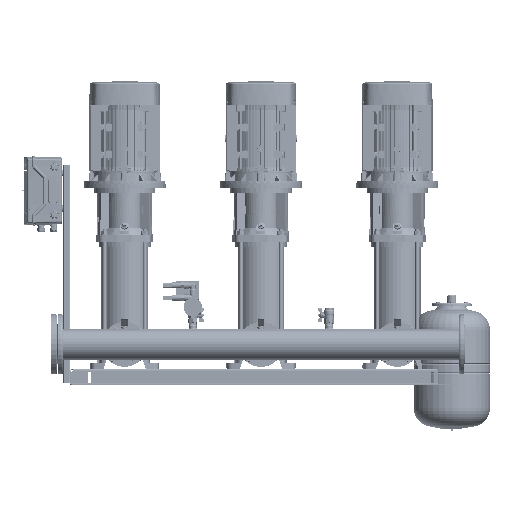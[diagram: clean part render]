
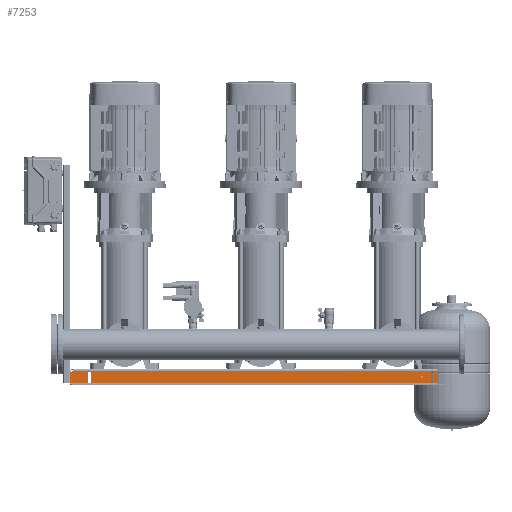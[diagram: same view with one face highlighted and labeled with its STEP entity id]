
A CAD part, front view. The second image highlights one B-rep face of the part: STEP entity #7253.
In plain terms, the highlighted planar face has unit normal (0, -1, 0) as drawn and (0, 0, 1) by its records, which use the part's own axes.
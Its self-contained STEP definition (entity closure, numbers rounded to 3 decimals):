
#6425=CARTESIAN_POINT('Vertex',(-8.671,-7.,130.)) ;
#6512=CARTESIAN_POINT('Vertex',(-1391.329,-7.,130.)) ;
#6646=CARTESIAN_POINT('Axis2P3D Location',(-2.877,-3.072,130.)) ;
#6650=CARTESIAN_POINT('Vertex',(-4.115,-9.962,130.)) ;
#6688=CARTESIAN_POINT('Vertex',(-1395.885,-9.962,130.)) ;
#6691=CARTESIAN_POINT('Axis2P3D Location',(-1397.123,-3.072,130.)) ;
#6712=CARTESIAN_POINT('Vertex',(0.,-14.883,130.)) ;
#6722=CARTESIAN_POINT('Axis2P3D Location',(-5.,-14.883,130.)) ;
#6750=CARTESIAN_POINT('Vertex',(-1400.,-14.883,130.)) ;
#6753=CARTESIAN_POINT('Axis2P3D Location',(-1395.,-14.883,130.)) ;
#6770=CARTESIAN_POINT('Line Origine',(-1329.,-12.,130.)) ;
#6774=CARTESIAN_POINT('Vertex',(-1333.,-12.,130.)) ;
#6776=CARTESIAN_POINT('Vertex',(-1325.,-12.,130.)) ;
#6814=CARTESIAN_POINT('Vertex',(-1333.,-52.,130.)) ;
#6824=CARTESIAN_POINT('Line Origine',(-1333.,-32.,130.)) ;
#6841=CARTESIAN_POINT('Line Origine',(-1325.,-32.,130.)) ;
#6845=CARTESIAN_POINT('Vertex',(-1325.,-52.,130.)) ;
#6872=CARTESIAN_POINT('Line Origine',(-1329.,-52.,130.)) ;
#6894=CARTESIAN_POINT('Line Origine',(-67.,-32.,130.)) ;
#6898=CARTESIAN_POINT('Vertex',(-67.,-12.,130.)) ;
#6900=CARTESIAN_POINT('Vertex',(-67.,-52.,130.)) ;
#6938=CARTESIAN_POINT('Vertex',(-75.,-12.,130.)) ;
#6948=CARTESIAN_POINT('Line Origine',(-71.,-12.,130.)) ;
#6965=CARTESIAN_POINT('Line Origine',(-71.,-52.,130.)) ;
#6969=CARTESIAN_POINT('Vertex',(-75.,-52.,130.)) ;
#7001=CARTESIAN_POINT('Line Origine',(-75.,-32.,130.)) ;
#7022=CARTESIAN_POINT('Vertex',(0.,-53.,130.)) ;
#7032=CARTESIAN_POINT('Line Origine',(0.,-33.941,130.)) ;
#7049=CARTESIAN_POINT('Axis2P3D Location',(-110.,-30.,130.)) ;
#7053=CARTESIAN_POINT('Vertex',(-105.75,-30.,130.)) ;
#7055=CARTESIAN_POINT('Vertex',(-114.25,-30.,130.)) ;
#7089=CARTESIAN_POINT('Axis2P3D Location',(-110.,-30.,130.)) ;
#7106=CARTESIAN_POINT('Line Origine',(-700.,-7.,130.)) ;
#7123=CARTESIAN_POINT('Line Origine',(-1400.,-33.941,130.)) ;
#7127=CARTESIAN_POINT('Vertex',(-1400.,-53.,130.)) ;
#7217=CARTESIAN_POINT('Axis2P3D Location',(-700.,0.,130.)) ;
#7222=CARTESIAN_POINT('Line Origine',(-700.,-53.,130.)) ;
#6772=VECTOR('Line Direction',#6771,1.) ;
#6826=VECTOR('Line Direction',#6825,1.) ;
#6843=VECTOR('Line Direction',#6842,1.) ;
#6874=VECTOR('Line Direction',#6873,1.) ;
#6896=VECTOR('Line Direction',#6895,1.) ;
#6950=VECTOR('Line Direction',#6949,1.) ;
#6967=VECTOR('Line Direction',#6966,1.) ;
#7003=VECTOR('Line Direction',#7002,1.) ;
#7034=VECTOR('Line Direction',#7033,1.) ;
#7108=VECTOR('Line Direction',#7107,1.) ;
#7125=VECTOR('Line Direction',#7124,1.) ;
#7224=VECTOR('Line Direction',#7223,1.) ;
#6647=DIRECTION('Axis2P3D Direction',(0.,0.,1.)) ;
#6692=DIRECTION('Axis2P3D Direction',(0.,0.,1.)) ;
#6723=DIRECTION('Axis2P3D Direction',(0.,0.,1.)) ;
#6754=DIRECTION('Axis2P3D Direction',(0.,0.,1.)) ;
#6771=DIRECTION('Vector Direction',(1.,0.,0.)) ;
#6825=DIRECTION('Vector Direction',(0.,-1.,0.)) ;
#6842=DIRECTION('Vector Direction',(0.,-1.,0.)) ;
#6873=DIRECTION('Vector Direction',(1.,0.,0.)) ;
#6895=DIRECTION('Vector Direction',(0.,-1.,0.)) ;
#6949=DIRECTION('Vector Direction',(1.,0.,0.)) ;
#6966=DIRECTION('Vector Direction',(1.,0.,0.)) ;
#7002=DIRECTION('Vector Direction',(0.,-1.,0.)) ;
#7033=DIRECTION('Vector Direction',(0.,1.,0.)) ;
#7050=DIRECTION('Axis2P3D Direction',(0.,0.,1.)) ;
#7090=DIRECTION('Axis2P3D Direction',(0.,0.,1.)) ;
#7107=DIRECTION('Vector Direction',(-1.,0.,0.)) ;
#7124=DIRECTION('Vector Direction',(0.,1.,0.)) ;
#7218=DIRECTION('Axis2P3D Direction',(0.,0.,1.)) ;
#7219=DIRECTION('Axis2P3D XDirection',(-1.,0.,0.)) ;
#7223=DIRECTION('Vector Direction',(1.,0.,0.)) ;
#6648=AXIS2_PLACEMENT_3D('Circle Axis2P3D',#6646,#6647,$) ;
#6693=AXIS2_PLACEMENT_3D('Circle Axis2P3D',#6691,#6692,$) ;
#6724=AXIS2_PLACEMENT_3D('Circle Axis2P3D',#6722,#6723,$) ;
#6755=AXIS2_PLACEMENT_3D('Circle Axis2P3D',#6753,#6754,$) ;
#7051=AXIS2_PLACEMENT_3D('Circle Axis2P3D',#7049,#7050,$) ;
#7091=AXIS2_PLACEMENT_3D('Circle Axis2P3D',#7089,#7090,$) ;
#7220=AXIS2_PLACEMENT_3D('Plane Axis2P3D',#7217,#7218,#7219) ;
#6773=LINE('Line',#6770,#6772) ;
#6827=LINE('Line',#6824,#6826) ;
#6844=LINE('Line',#6841,#6843) ;
#6875=LINE('Line',#6872,#6874) ;
#6897=LINE('Line',#6894,#6896) ;
#6951=LINE('Line',#6948,#6950) ;
#6968=LINE('Line',#6965,#6967) ;
#7004=LINE('Line',#7001,#7003) ;
#7035=LINE('Line',#7032,#7034) ;
#7109=LINE('Line',#7106,#7108) ;
#7126=LINE('Line',#7123,#7125) ;
#7225=LINE('Line',#7222,#7224) ;
#6649=CIRCLE('generated circle',#6648,7.) ;
#6694=CIRCLE('generated circle',#6693,7.) ;
#6725=CIRCLE('generated circle',#6724,5.) ;
#6756=CIRCLE('generated circle',#6755,5.) ;
#7052=CIRCLE('generated circle',#7051,4.25) ;
#7092=CIRCLE('generated circle',#7091,4.25) ;
#7221=PLANE('',#7220) ;
#7242=FACE_BOUND('',#7237,.T.) ;
#7248=FACE_BOUND('',#7243,.T.) ;
#7252=FACE_BOUND('',#7249,.T.) ;
#6652=EDGE_CURVE('',#6426,#6651,#6649,.T.) ;
#6695=EDGE_CURVE('',#6689,#6513,#6694,.T.) ;
#6726=EDGE_CURVE('',#6713,#6651,#6725,.T.) ;
#6757=EDGE_CURVE('',#6689,#6751,#6756,.T.) ;
#6778=EDGE_CURVE('',#6775,#6777,#6773,.T.) ;
#6828=EDGE_CURVE('',#6775,#6815,#6827,.T.) ;
#6847=EDGE_CURVE('',#6777,#6846,#6844,.T.) ;
#6876=EDGE_CURVE('',#6815,#6846,#6875,.T.) ;
#6902=EDGE_CURVE('',#6899,#6901,#6897,.T.) ;
#6952=EDGE_CURVE('',#6939,#6899,#6951,.T.) ;
#6971=EDGE_CURVE('',#6970,#6901,#6968,.T.) ;
#7005=EDGE_CURVE('',#6939,#6970,#7004,.T.) ;
#7036=EDGE_CURVE('',#7023,#6713,#7035,.T.) ;
#7057=EDGE_CURVE('',#7054,#7056,#7052,.T.) ;
#7093=EDGE_CURVE('',#7056,#7054,#7092,.T.) ;
#7110=EDGE_CURVE('',#6513,#6426,#7109,.F.) ;
#7129=EDGE_CURVE('',#7128,#6751,#7126,.T.) ;
#7226=EDGE_CURVE('',#7128,#7023,#7225,.T.) ;
#7228=ORIENTED_EDGE('',*,*,#6652,.F.) ;
#7229=ORIENTED_EDGE('',*,*,#7110,.F.) ;
#7230=ORIENTED_EDGE('',*,*,#6695,.F.) ;
#7231=ORIENTED_EDGE('',*,*,#6757,.T.) ;
#7232=ORIENTED_EDGE('',*,*,#7129,.F.) ;
#7233=ORIENTED_EDGE('',*,*,#7226,.T.) ;
#7234=ORIENTED_EDGE('',*,*,#7036,.T.) ;
#7235=ORIENTED_EDGE('',*,*,#6726,.T.) ;
#7238=ORIENTED_EDGE('',*,*,#6778,.T.) ;
#7239=ORIENTED_EDGE('',*,*,#6847,.T.) ;
#7240=ORIENTED_EDGE('',*,*,#6876,.F.) ;
#7241=ORIENTED_EDGE('',*,*,#6828,.F.) ;
#7244=ORIENTED_EDGE('',*,*,#6902,.T.) ;
#7245=ORIENTED_EDGE('',*,*,#6971,.F.) ;
#7246=ORIENTED_EDGE('',*,*,#7005,.F.) ;
#7247=ORIENTED_EDGE('',*,*,#6952,.T.) ;
#7250=ORIENTED_EDGE('',*,*,#7057,.F.) ;
#7251=ORIENTED_EDGE('',*,*,#7093,.F.) ;
#7227=EDGE_LOOP('',(#7228,#7229,#7230,#7231,#7232,#7233,#7234,#7235)) ;
#7237=EDGE_LOOP('',(#7238,#7239,#7240,#7241)) ;
#7243=EDGE_LOOP('',(#7244,#7245,#7246,#7247)) ;
#7249=EDGE_LOOP('',(#7250,#7251)) ;
#6426=VERTEX_POINT('',#6425) ;
#6513=VERTEX_POINT('',#6512) ;
#6651=VERTEX_POINT('',#6650) ;
#6689=VERTEX_POINT('',#6688) ;
#6713=VERTEX_POINT('',#6712) ;
#6751=VERTEX_POINT('',#6750) ;
#6775=VERTEX_POINT('',#6774) ;
#6777=VERTEX_POINT('',#6776) ;
#6815=VERTEX_POINT('',#6814) ;
#6846=VERTEX_POINT('',#6845) ;
#6899=VERTEX_POINT('',#6898) ;
#6901=VERTEX_POINT('',#6900) ;
#6939=VERTEX_POINT('',#6938) ;
#6970=VERTEX_POINT('',#6969) ;
#7023=VERTEX_POINT('',#7022) ;
#7054=VERTEX_POINT('',#7053) ;
#7056=VERTEX_POINT('',#7055) ;
#7128=VERTEX_POINT('',#7127) ;
#7253=ADVANCED_FACE('PartBody',(#7236,#7242,#7248,#7252),#7221,.T.) ;
#7236=FACE_OUTER_BOUND('',#7227,.T.) ;
